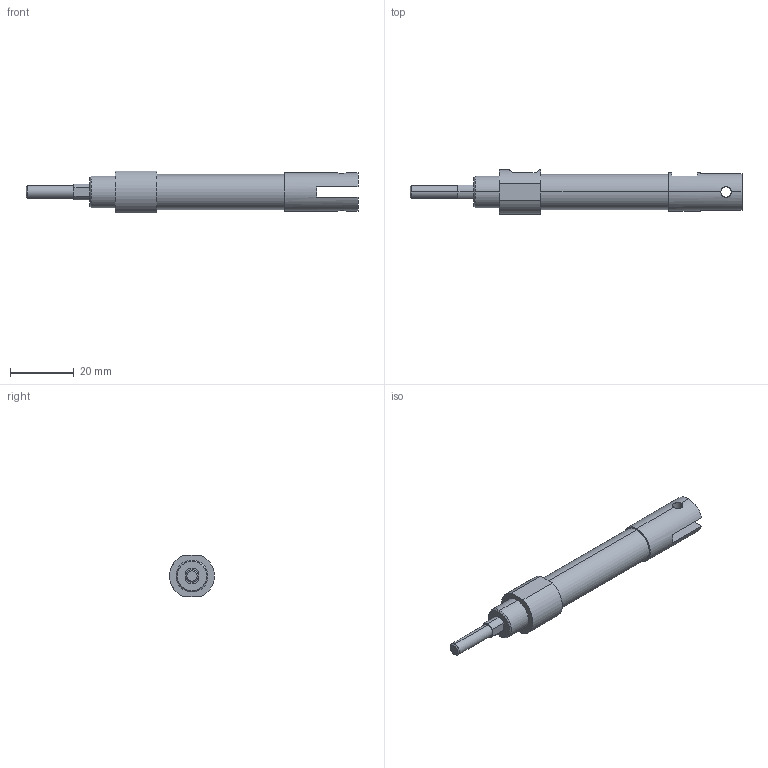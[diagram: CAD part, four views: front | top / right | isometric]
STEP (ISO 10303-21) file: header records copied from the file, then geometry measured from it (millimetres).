
FILE_DESCRIPTION (( 'STEP AP203' ), '1' );
FILE_NAME ('ZGU2-10-15-W.STEP', '2016-03-31T00:51:35', ( '' ), ( '' ), 'SwSTEP 2.0', 'SolidWorks 2014', '' );
FILE_SCHEMA (( 'CONFIG_CONTROL_DESIGN' ));
Length unit declared in the file: millimetre
Products named in the file (1): ZGU2-10-15-W
Bounding box: 104 x 14 x 13 mm (x, y, z)
Volume: 8399.1 mm3; surface area: 4141.3 mm2
Topology: 1 solids, 1 shells, 50 faces, 117 edges, 72 vertices
Faces by surface type: cylinder 21, plane 21, cone 8
Entity records: 1590 total; most frequent: CARTESIAN_POINT 350, DIRECTION 257, ORIENTED_EDGE 226, EDGE_CURVE 113, AXIS2_PLACEMENT_3D 99, VERTEX_POINT 72, EDGE_LOOP 61, LINE 59
